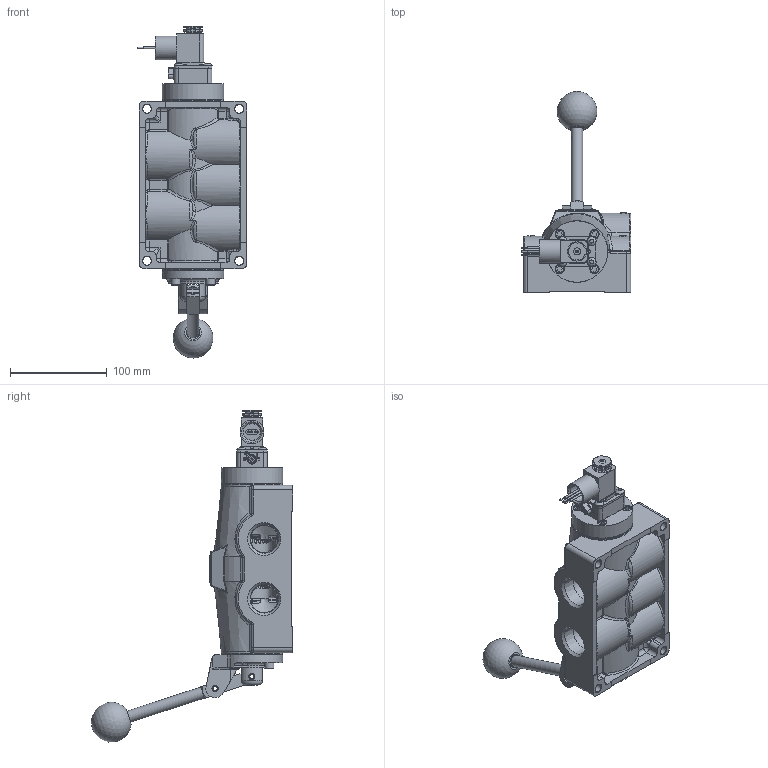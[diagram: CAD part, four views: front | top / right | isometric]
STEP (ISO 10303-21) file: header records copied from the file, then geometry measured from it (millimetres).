
FILE_DESCRIPTION(/* description */ (''),/* implementation_level */ '2;1');
FILE_NAME(/* name */ 'D:\Engineering\Product\valves\Assembly\Standard\ESAH\stp\ESAH8JOC.stp',/* time_stamp */ '2021-04-15T08:32:35-04:00',/* author */ ('RMcKenna'),/* organization */ (''),/* preprocessor_version */ 'ST-DEVELOPER v18.1',/* originating_system */ 'Autodesk Inventor 2021',/* authorisation */ '');
FILE_SCHEMA (('AUTOMOTIVE_DESIGN { 1 0 10303 214 3 1 1 }'));
Products named in the file (1): Part33
Bounding box: 113.32 x 208.05 x 343.35 mm (x, y, z)
Volume: 1115344.3 mm3; surface area: 230229.6 mm2
Topology: 1 solids, 34 shells, 2625 faces, 6398 edges, 3935 vertices
Faces by surface type: plane 927, cylinder 710, cone 348, bspline 339, torus 212, sphere 89
Full cylindrical faces by diameter (mm): 1.168 x10, 1.3 x1, 1.397 x1, 1.5 x1, 1.524 x3, 2.032 x7, 2.07 x2, 2.261 x2, 2.35 x4, 2.388 x1, 2.5 x1, 2.778 x2, 2.8 x1, 3 x4, 3.048 x3, 3.175 x2, 3.4 x1, 3.683 x5, 3.962 x2, 4.191 x2, 4.826 x4, 4.978 x9, 5.15 x4, 5.156 x4, 5.5 x1, 6.35 x12, 6.65 x1, 6.747 x4, 7.137 x4, 7.144 x8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
Entity records: 104112 total; most frequent: CARTESIAN_POINT 41860, ORIENTED_EDGE 12650, DIRECTION 11976, EDGE_CURVE 6325, AXIS2_PLACEMENT_3D 4672, VERTEX_POINT 3935, EDGE_LOOP 2900, LINE 2632
